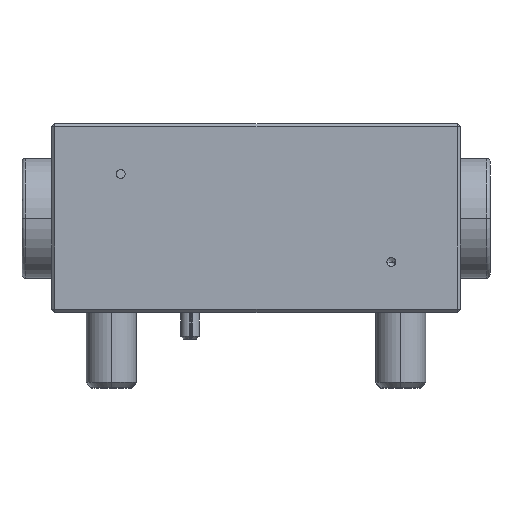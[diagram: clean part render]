
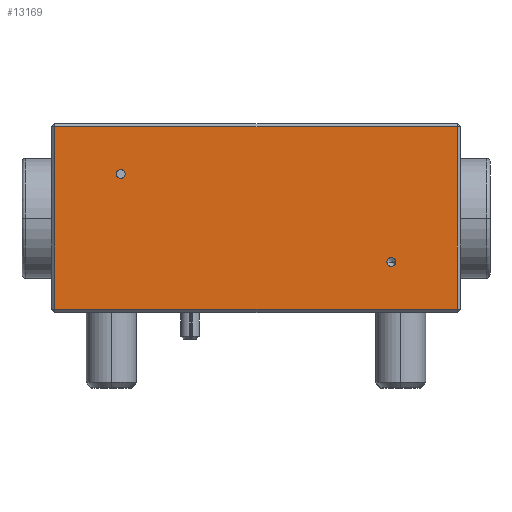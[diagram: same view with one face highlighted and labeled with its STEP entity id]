
A CAD part, top view. The second image highlights one B-rep face of the part: STEP entity #13169.
In plain terms, the highlighted planar face has unit normal (0, 0, 1).
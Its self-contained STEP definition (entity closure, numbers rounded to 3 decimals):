
#292 = ORIENTED_EDGE ( 'NONE', *, *, #14726, .T. ) ;
#415 = ORIENTED_EDGE ( 'NONE', *, *, #14775, .F. ) ;
#783 = CARTESIAN_POINT ( 'NONE',  ( 65., -14.5, 32.5 ) ) ;
#929 = CARTESIAN_POINT ( 'NONE',  ( 53.3, -7., 32.5 ) ) ;
#1369 = DIRECTION ( 'NONE',  ( 0., 0., 1. ) ) ;
#1418 = CARTESIAN_POINT ( 'NONE',  ( 11., 7., 32.5 ) ) ;
#1663 = DIRECTION ( 'NONE',  ( 1., 0., 0. ) ) ;
#1764 = VERTEX_POINT ( 'NONE', #8949 ) ;
#1772 = DIRECTION ( 'NONE',  ( 0., 0., 1. ) ) ;
#1881 = CARTESIAN_POINT ( 'NONE',  ( 11., 7., 32.5 ) ) ;
#2493 = VERTEX_POINT ( 'NONE', #3278 ) ;
#2735 = ORIENTED_EDGE ( 'NONE', *, *, #12739, .F. ) ;
#2867 = EDGE_CURVE ( 'NONE', #5682, #2493, #10956, .T. ) ;
#3275 = VERTEX_POINT ( 'NONE', #4849 ) ;
#3278 = CARTESIAN_POINT ( 'NONE',  ( 54.7, -7., 32.5 ) ) ;
#3371 = ORIENTED_EDGE ( 'NONE', *, *, #14705, .T. ) ;
#3447 = AXIS2_PLACEMENT_3D ( 'NONE', #6800, #6532, #6450 ) ;
#4222 = VERTEX_POINT ( 'NONE', #13310 ) ;
#4516 = AXIS2_PLACEMENT_3D ( 'NONE', #8033, #7981, #7932 ) ;
#4849 = CARTESIAN_POINT ( 'NONE',  ( 0.5, 14.5, 32.5 ) ) ;
#5291 = CIRCLE ( 'NONE', #4516, 0.7 ) ;
#5674 = CIRCLE ( 'NONE', #6053, 0.7 ) ;
#5682 = VERTEX_POINT ( 'NONE', #929 ) ;
#6053 = AXIS2_PLACEMENT_3D ( 'NONE', #1418, #1369, #8704 ) ;
#6123 = LINE ( 'NONE', #10330, #6157 ) ;
#6157 = VECTOR ( 'NONE', #10296, 1000. ) ;
#6341 = CARTESIAN_POINT ( 'NONE',  ( 11.7, 7., 32.5 ) ) ;
#6450 = DIRECTION ( 'NONE',  ( 1., 0., 0. ) ) ;
#6532 = DIRECTION ( 'NONE',  ( 0., 0., 1. ) ) ;
#6715 = LINE ( 'NONE', #11398, #6757 ) ;
#6753 = VECTOR ( 'NONE', #11307, 1000. ) ;
#6757 = VECTOR ( 'NONE', #11257, 1000. ) ;
#6771 = LINE ( 'NONE', #11354, #6753 ) ;
#6800 = CARTESIAN_POINT ( 'NONE',  ( 54., -7., 32.5 ) ) ;
#6989 = VECTOR ( 'NONE', #12027, 1000. ) ;
#7009 = LINE ( 'NONE', #783, #6989 ) ;
#7265 = ORIENTED_EDGE ( 'NONE', *, *, #14683, .T. ) ;
#7358 = VERTEX_POINT ( 'NONE', #6341 ) ;
#7892 = CIRCLE ( 'NONE', #8075, 0.7 ) ;
#7932 = DIRECTION ( 'NONE',  ( 1., 0., 0. ) ) ;
#7971 = VERTEX_POINT ( 'NONE', #14015 ) ;
#7981 = DIRECTION ( 'NONE',  ( 0., 0., 1. ) ) ;
#8033 = CARTESIAN_POINT ( 'NONE',  ( 54., -7., 32.5 ) ) ;
#8075 = AXIS2_PLACEMENT_3D ( 'NONE', #1881, #1772, #1663 ) ;
#8687 = DIRECTION ( 'NONE',  ( -1., 0., 0. ) ) ;
#8699 = DIRECTION ( 'NONE',  ( 0., 0., -1. ) ) ;
#8703 = CARTESIAN_POINT ( 'NONE',  ( 65., -15., 32.5 ) ) ;
#8704 = DIRECTION ( 'NONE',  ( 1., 0., 0. ) ) ;
#8865 = PLANE ( 'NONE',  #11009 ) ;
#8949 = CARTESIAN_POINT ( 'NONE',  ( 64.5, 14.5, 32.5 ) ) ;
#9615 = EDGE_LOOP ( 'NONE', ( #10970, #7265, #3371, #292 ) ) ;
#10296 = DIRECTION ( 'NONE',  ( 0., -1., 0. ) ) ;
#10330 = CARTESIAN_POINT ( 'NONE',  ( 0.5, -15., 32.5 ) ) ;
#10359 = ORIENTED_EDGE ( 'NONE', *, *, #2867, .F. ) ;
#10830 = FACE_OUTER_BOUND ( 'NONE', #9615, .T. ) ;
#10846 = FACE_BOUND ( 'NONE', #15016, .T. ) ;
#10956 = CIRCLE ( 'NONE', #3447, 0.7 ) ;
#10970 = ORIENTED_EDGE ( 'NONE', *, *, #14677, .T. ) ;
#11002 = FACE_BOUND ( 'NONE', #12451, .T. ) ;
#11009 = AXIS2_PLACEMENT_3D ( 'NONE', #8703, #8699, #8687 ) ;
#11257 = DIRECTION ( 'NONE',  ( -1., 0., 0. ) ) ;
#11307 = DIRECTION ( 'NONE',  ( 0., 1., 0. ) ) ;
#11354 = CARTESIAN_POINT ( 'NONE',  ( 64.5, -15., 32.5 ) ) ;
#11398 = CARTESIAN_POINT ( 'NONE',  ( 65., 14.5, 32.5 ) ) ;
#11555 = VERTEX_POINT ( 'NONE', #14143 ) ;
#12027 = DIRECTION ( 'NONE',  ( 1., 0., 0. ) ) ;
#12451 = EDGE_LOOP ( 'NONE', ( #14236, #2735 ) ) ;
#12739 = EDGE_CURVE ( 'NONE', #11555, #7358, #7892, .T. ) ;
#13169 = ADVANCED_FACE ( 'NONE', ( #10830, #11002, #10846 ), #8865, .F. ) ;
#13310 = CARTESIAN_POINT ( 'NONE',  ( 64.5, -14.5, 32.5 ) ) ;
#14015 = CARTESIAN_POINT ( 'NONE',  ( 0.5, -14.5, 32.5 ) ) ;
#14143 = CARTESIAN_POINT ( 'NONE',  ( 10.3, 7., 32.5 ) ) ;
#14236 = ORIENTED_EDGE ( 'NONE', *, *, #14749, .F. ) ;
#14677 = EDGE_CURVE ( 'NONE', #7971, #4222, #7009, .T. ) ;
#14683 = EDGE_CURVE ( 'NONE', #4222, #1764, #6771, .T. ) ;
#14705 = EDGE_CURVE ( 'NONE', #1764, #3275, #6715, .T. ) ;
#14726 = EDGE_CURVE ( 'NONE', #3275, #7971, #6123, .T. ) ;
#14749 = EDGE_CURVE ( 'NONE', #7358, #11555, #5674, .T. ) ;
#14775 = EDGE_CURVE ( 'NONE', #2493, #5682, #5291, .T. ) ;
#15016 = EDGE_LOOP ( 'NONE', ( #415, #10359 ) ) ;
